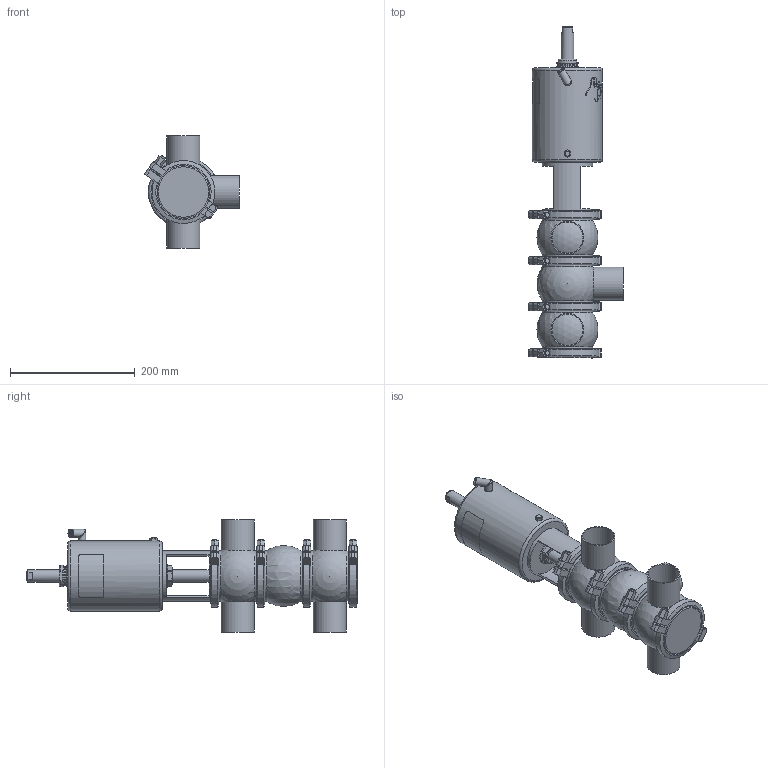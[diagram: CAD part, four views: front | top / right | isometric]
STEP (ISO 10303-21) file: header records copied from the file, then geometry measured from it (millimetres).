
FILE_DESCRIPTION (( 'STEP AP214' ), '1' );
FILE_NAME ('INNOVA L W W DIN 050 T2 AS NC_10.241.16.0028.STEP', '2024-08-07T07:07:20', ( '' ), ( '' ), 'SwSTEP 2.0', 'SolidWorks 2023', '' );
FILE_SCHEMA (( 'AUTOMOTIVE_DESIGN' ));
Length unit declared in the file: millimetre
Products named in the file (7): 10.241.15.0001_DIN 050; INNOVA L W W DIN 050 T2 AS NC_10.241.16.0028; 10.240.15.0010_DN 050; 10.240.15.0006_DIN 050; 10.240.15.0014_T2 AS P180; 10.240.15.0007_DIN 050; 10.240.15.0001_DN 050
Assembly tree (10 placements, depth 2):
  INNOVA L W W DIN 050 T2 AS NC_10.241.16.0028
    10.240.15.0007_DIN 050  x2
    10.240.15.0006_DIN 050
    10.240.15.0010_DN 050
    10.240.15.0014_T2 AS P180
    10.240.15.0001_DN 050  x4
    10.241.15.0001_DIN 050
Bounding box: 152.59 x 533.27 x 180 mm (x, y, z)
Volume: 3335873.3 mm3; surface area: 399156 mm2
Topology: 11 solids, 11 shells, 540 faces, 1416 edges, 923 vertices
Faces by surface type: plane 262, cylinder 140, bspline 80, cone 46, sphere 8, torus 4
Full cylindrical faces by diameter (mm): 6.15 x1, 8 x9, 8.5 x1, 10.5 x1, 12.5 x3, 16 x1, 20 x2, 31 x1, 34.5 x2, 36.5 x1, 50 x5, 53 x5, 81 x8, 93 x8, 112.5 x1
Entity records: 20742 total; most frequent: CARTESIAN_POINT 11313, ORIENTED_EDGE 1624, DIRECTION 1275, EDGE_CURVE 812, VERTEX_POINT 563, AXIS2_PLACEMENT_3D 493, EDGE_LOOP 431, FACE_OUTER_BOUND 386
